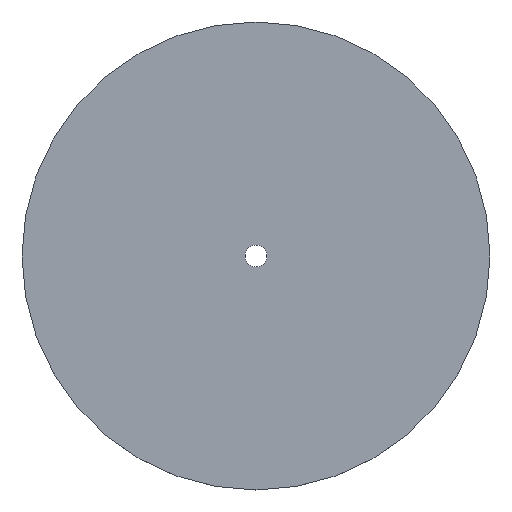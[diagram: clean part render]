
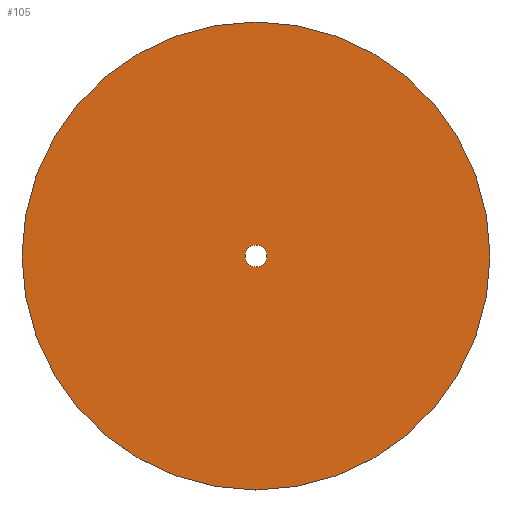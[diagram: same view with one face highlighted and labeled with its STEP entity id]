
A CAD part, top view. The second image highlights one B-rep face of the part: STEP entity #105.
In plain terms, the highlighted planar face has unit normal (0, 0, 1).
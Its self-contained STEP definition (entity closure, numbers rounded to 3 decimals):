
#21 = EDGE_CURVE('',#22,#22,#24,.T.);
#22 = VERTEX_POINT('',#23);
#23 = CARTESIAN_POINT('',(-345.,120.,0.));
#24 = SURFACE_CURVE('',#25,(#30,#42),.PCURVE_S1.);
#25 = CIRCLE('',#26,150.);
#26 = AXIS2_PLACEMENT_3D('',#27,#28,#29);
#27 = CARTESIAN_POINT('',(-495.,120.,0.));
#28 = DIRECTION('',(0.,0.,1.));
#29 = DIRECTION('',(1.,0.,-0.));
#30 = PCURVE('',#31,#36);
#31 = CYLINDRICAL_SURFACE('',#32,150.);
#32 = AXIS2_PLACEMENT_3D('',#33,#34,#35);
#33 = CARTESIAN_POINT('',(-495.,120.,-8.));
#34 = DIRECTION('',(0.,0.,1.));
#35 = DIRECTION('',(1.,0.,-0.));
#36 = DEFINITIONAL_REPRESENTATION('',(#37),#41);
#37 = LINE('',#38,#39);
#38 = CARTESIAN_POINT('',(0.,8.));
#39 = VECTOR('',#40,1.);
#40 = DIRECTION('',(1.,0.));
#41 = ( GEOMETRIC_REPRESENTATION_CONTEXT(2) 
PARAMETRIC_REPRESENTATION_CONTEXT() REPRESENTATION_CONTEXT('2D SPACE',''
  ) );
#42 = PCURVE('',#43,#48);
#43 = PLANE('',#44);
#44 = AXIS2_PLACEMENT_3D('',#45,#46,#47);
#45 = CARTESIAN_POINT('',(-495.,120.,0.));
#46 = DIRECTION('',(0.,0.,1.));
#47 = DIRECTION('',(1.,0.,-0.));
#48 = DEFINITIONAL_REPRESENTATION('',(#49),#53);
#49 = CIRCLE('',#50,150.);
#50 = AXIS2_PLACEMENT_2D('',#51,#52);
#51 = CARTESIAN_POINT('',(0.,0.));
#52 = DIRECTION('',(1.,0.));
#53 = ( GEOMETRIC_REPRESENTATION_CONTEXT(2) 
PARAMETRIC_REPRESENTATION_CONTEXT() REPRESENTATION_CONTEXT('2D SPACE',''
  ) );
#105 = ADVANCED_FACE('',(#106,#109),#43,.T.);
#106 = FACE_BOUND('',#107,.T.);
#107 = EDGE_LOOP('',(#108));
#108 = ORIENTED_EDGE('',*,*,#21,.T.);
#109 = FACE_BOUND('',#110,.T.);
#110 = EDGE_LOOP('',(#111));
#111 = ORIENTED_EDGE('',*,*,#112,.F.);
#112 = EDGE_CURVE('',#113,#113,#115,.T.);
#113 = VERTEX_POINT('',#114);
#114 = CARTESIAN_POINT('',(-488.,120.,0.));
#115 = SURFACE_CURVE('',#116,(#121,#128),.PCURVE_S1.);
#116 = CIRCLE('',#117,7.);
#117 = AXIS2_PLACEMENT_3D('',#118,#119,#120);
#118 = CARTESIAN_POINT('',(-495.,120.,0.));
#119 = DIRECTION('',(0.,0.,1.));
#120 = DIRECTION('',(1.,0.,-0.));
#121 = PCURVE('',#43,#122);
#122 = DEFINITIONAL_REPRESENTATION('',(#123),#127);
#123 = CIRCLE('',#124,7.);
#124 = AXIS2_PLACEMENT_2D('',#125,#126);
#125 = CARTESIAN_POINT('',(0.,0.));
#126 = DIRECTION('',(1.,0.));
#127 = ( GEOMETRIC_REPRESENTATION_CONTEXT(2) 
PARAMETRIC_REPRESENTATION_CONTEXT() REPRESENTATION_CONTEXT('2D SPACE',''
  ) );
#128 = PCURVE('',#129,#134);
#129 = CYLINDRICAL_SURFACE('',#130,7.);
#130 = AXIS2_PLACEMENT_3D('',#131,#132,#133);
#131 = CARTESIAN_POINT('',(-495.,120.,-8.));
#132 = DIRECTION('',(0.,0.,1.));
#133 = DIRECTION('',(1.,0.,-0.));
#134 = DEFINITIONAL_REPRESENTATION('',(#135),#139);
#135 = LINE('',#136,#137);
#136 = CARTESIAN_POINT('',(0.,8.));
#137 = VECTOR('',#138,1.);
#138 = DIRECTION('',(1.,0.));
#139 = ( GEOMETRIC_REPRESENTATION_CONTEXT(2) 
PARAMETRIC_REPRESENTATION_CONTEXT() REPRESENTATION_CONTEXT('2D SPACE',''
  ) );
